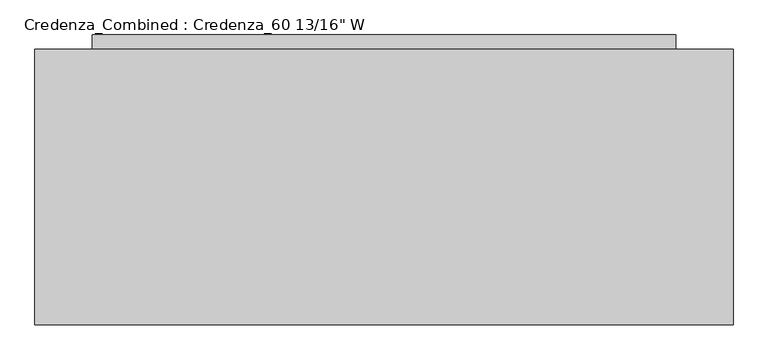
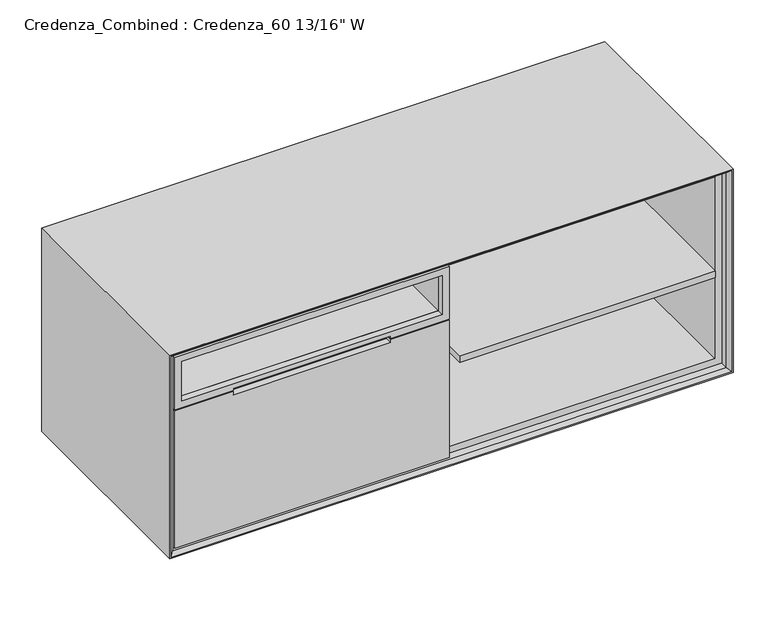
"""IFC4 building model written with IfcOpenShell, lengths in millimetres: furniture geometry."""

from ifc_helpers import new_model, si_unit, frame, origin, origin_with_axes, place, context, project, spatial, polyline, outline, extrude, faceted_brep, source, transform, mapped, element, save


def furniture_35edd451(model_context):
    return source(origin(), model_context, "Body", "SolidModel", [
        extrude(outline(polyline([(1501.775, 609.6), (1501.775, 9.525), (800.1, 9.525), (800.1, 609.6), (1501.775, 609.6)])), frame((0.0, 0.0, 371.475), z_axis=(0.0, 0.0, 1.0), x_axis=(1.0, 0.0, 0.0)), (0.0, 0.0, 1.0), 19.05),
        extrude(outline(polyline([(1417.6375, 609.6), (1417.6375, 241.3), (127.0, 241.3), (127.0, 609.6), (1417.6375, 609.6)])), origin_with_axes(), (0.0, 0.0, 1.0), 87.3125),
        extrude(outline(polyline([(1417.6375, 641.35), (1417.6375, 609.6), (127.0, 609.6), (127.0, 641.35), (1417.6375, 641.35)])), origin_with_axes(), (0.0, 0.0, 1.0), 647.7),
        extrude(outline(polyline([(665.1625, 1531.9375), (665.1625, 12.7), (100.0125, 12.7), (100.0125, 1531.9375), (665.1625, 1531.9375)]), holes=[polyline([(646.1125, 31.75), (646.1125, 1512.8875), (119.0625, 1512.8875), (119.0625, 31.75), (646.1125, 31.75)])]), frame((0.0, 31.75, 0.0), z_axis=(0.0, 1.0, 0.0), x_axis=(0.0, 0.0, 1.0)), (0.0, 0.0, 1.0), 577.85),
        faceted_brep([(1531.9375, 9.525, 665.1625), (1531.9375, 609.6, 665.1625), (1531.9375, 609.6, 100.0125), (1531.9375, 9.525, 100.0125), (1541.4625, 0.0, 674.6875), (1541.4625, 0.0, 90.4875), (1544.6375, 609.6, 677.8625), (1544.6375, 0.0, 677.8625), (1544.6375, 0.0, 87.3125), (1544.6375, 609.6, 87.3125), (12.7, 609.6, 100.0125), (12.7, 9.525, 100.0125), (3.175, 0.0, 90.4875), (0.0, 0.0, 87.3125), (0.0, 609.6, 87.3125), (12.7, 609.6, 665.1625), (12.7, 9.525, 665.1625), (3.175, 0.0, 674.6875), (0.0, 0.0, 677.8625), (0.0, 609.6, 677.8625)], [[[0, 1, 2, 3]], [[4, 0, 3, 5]], [[6, 7, 8, 9]], [[3, 2, 10, 11]], [[5, 3, 11, 12]], [[9, 8, 13, 14]], [[11, 10, 15, 16]], [[12, 11, 16, 17]], [[14, 13, 18, 19]], [[9, 14, 19, 6], [1, 15, 10, 2]], [[16, 15, 1, 0]], [[17, 16, 0, 4]], [[7, 18, 13, 8], [5, 12, 17, 4]], [[19, 18, 7, 6]]]),
        extrude(outline(polyline([(754.0625, 609.6), (754.0625, 28.575), (36.5125, 28.575), (36.5125, 609.6), (754.0625, 609.6)]), holes=[polyline([(49.2125, 596.9), (49.2125, 41.275), (739.775, 41.275), (739.775, 596.9), (49.2125, 596.9)])]), frame((0.0, 0.0, 118.26875), z_axis=(0.0, 0.0, 1.0), x_axis=(1.0, 0.0, 0.0)), (0.0, 0.0, 1.0), 360.3625),
        extrude(outline(polyline([(642.14375, 754.0625), (642.14375, 36.5125), (524.66875, 36.5125), (524.66875, 754.0625), (642.14375, 754.0625)]), holes=[polyline([(640.55625, 752.475), (526.25625, 752.475), (526.25625, 38.1), (640.55625, 38.1), (640.55625, 752.475)])]), frame((0.0, 28.575, 0.0), z_axis=(0.0, 1.0, 0.0), x_axis=(0.0, 0.0, 1.0)), (0.0, 0.0, 1.0), 581.025),
        extrude(outline(polyline([(504.03125, 19.05), (105.56875, 19.05), (105.56875, 771.525), (504.03125, 771.525), (504.03125, 611.1875), (494.7030946, 611.1875), (494.7030946, 179.3875), (504.03125, 179.3875), (504.03125, 19.05)])), frame((0.0, 9.525, 0.0), z_axis=(0.0, 1.0, 0.0), x_axis=(0.0, 0.0, 1.0)), (0.0, 0.0, 1.0), 19.05),
        extrude(outline(polyline([(659.60625, 771.525), (659.60625, 19.05), (507.20625, 19.05), (507.20625, 179.3875), (513.3594054, 179.3875), (513.3594054, 611.1875), (507.20625, 611.1875), (507.20625, 771.525), (659.60625, 771.525)]), holes=[polyline([(640.55625, 38.1), (640.55625, 752.475), (526.25625, 752.475), (526.25625, 38.1), (640.55625, 38.1)])]), frame((0.0, 9.525, 0.0), z_axis=(0.0, 1.0, 0.0), x_axis=(0.0, 0.0, 1.0)), (0.0, 0.0, 1.0), 19.05),
    ])


if __name__ == "__main__":
    model = new_model("IFC4")
    model_context = context("Model", 3, world=origin())
    ifc_project = project(units=[si_unit("LENGTHUNIT", "METRE", prefix="MILLI")], contexts=[model_context])
    site = spatial("IfcSite", under=ifc_project)
    building = spatial("IfcBuilding", under=site)
    placement = place(None, origin())
    furniture_shape = furniture_35edd451(model_context)
    element("IfcFurniture", 1, ObjectType="Credenza_Combined : Credenza_60 13/16\" W", at=placement, inside=building, context=model_context, shape_type="MappedRepresentation", body=[
        mapped(furniture_shape, transform((0.0, 0.0, 0.0), x_axis=(1.0, 0.0, 0.0), y_axis=(0.0, 1.0, 0.0), z_axis=(0.0, 0.0, 1.0))),
    ])
    save(model, "model.ifc")
